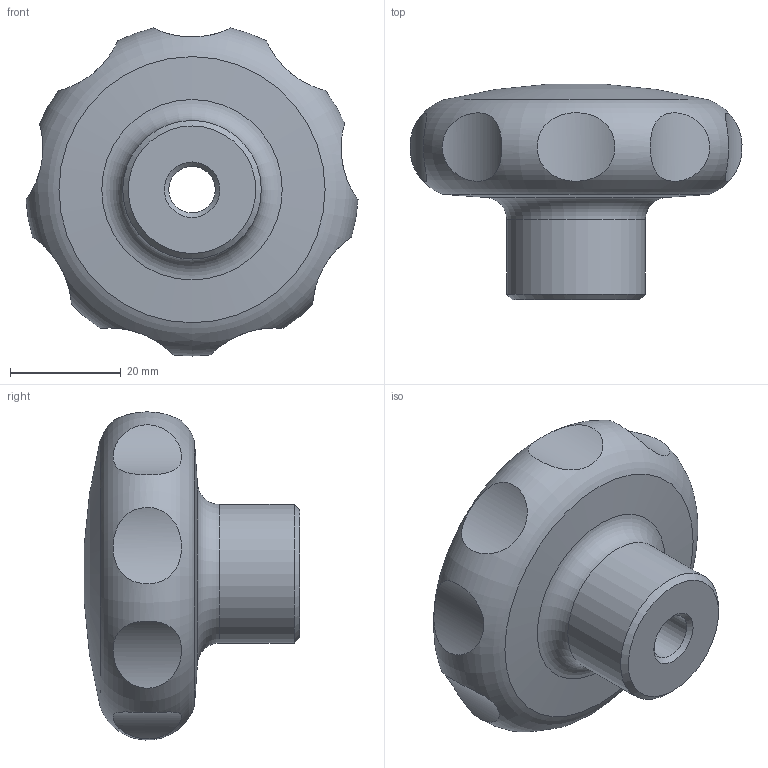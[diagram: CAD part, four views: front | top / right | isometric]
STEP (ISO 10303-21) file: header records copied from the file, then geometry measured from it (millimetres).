
FILE_DESCRIPTION( ( 'STEP AP203' ), '1' );
FILE_NAME( 'C:/Temp/Ganter_Step_05_03_2020/data/2_2/gn_5335/gn_5335_ni_d/Stainless steel-Star knob GN 5335-60-M10-D.stp', '2020-03-05T12:10:24', ( 'License CC BY-ND 4.0' ), ( 'CADENAS' ), ' ', 'PARTsolutions', ' ' );
FILE_SCHEMA( ( 'CONFIG_CONTROL_DESIGN' ) );
Length unit declared in the file: millimetre
Products named in the file (1): _Stainless steel-Star knob GN 5335-60-M10-D
Bounding box: 59.88 x 38.87 x 59.16 mm (x, y, z)
Volume: 51754.9 mm3; surface area: 9732.2 mm2
Topology: 1 solids, 1 shells, 20 faces, 30 edges, 20 vertices
Faces by surface type: cylinder 12, cone 3, torus 2, sphere 2, plane 1
Full cylindrical faces by diameter (mm): 8.376 x1, 10 x1, 25 x1
Entity records: 1200 total; most frequent: CARTESIAN_POINT 833, DIRECTION 64, EDGE_LOOP 40, ORIENTED_EDGE 40, AXIS2_PLACEMENT_3D 32, FACE_OUTER_BOUND 27, VERTEX_POINT 21, ADVANCED_FACE 20
